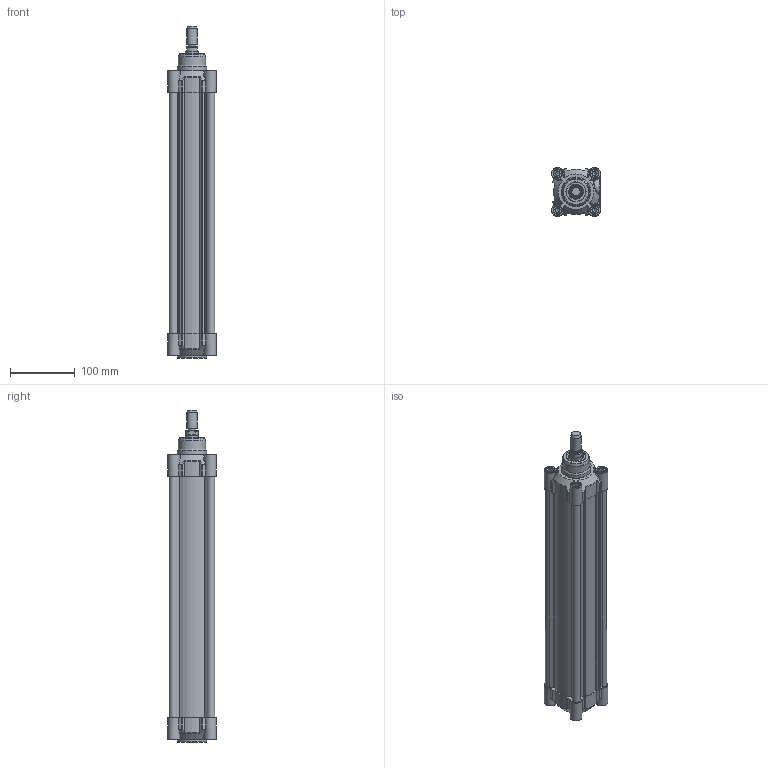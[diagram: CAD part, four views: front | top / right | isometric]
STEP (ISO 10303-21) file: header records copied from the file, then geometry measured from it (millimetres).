
FILE_DESCRIPTION(/* description */ ('CILINDRO D.E. MAGNETICO AMMORTIZZATO ISO 15552'),/* implementation_level */ '2;1');
FILE_NAME(/* name */ 'T:\Archivio Inventor\- 00 NUOVI STP PER SITO CON STELO CHE SI MUOVE\SERIE H - U\SERIE HDM\HDM063 - TUBO NUOVO\HDM063.320.GS.M.stp',/* time_stamp */ '2018-07-30T14:39:19+02:00',/* author */ ('carlo.corazza'),/* organization */ (''),/* preprocessor_version */ 'ST-DEVELOPER v16.5',/* originating_system */ 'Autodesk Inventor 2017',/* authorisation */ '');
FILE_SCHEMA (('AUTOMOTIVE_DESIGN { 1 0 10303 214 3 1 1 }'));
Length unit declared in the file: millimetre
Products named in the file (5): HDM063.320.GS.M; TP; TA; STELO-320; CORPO-320
Assembly tree (4 placements, depth 2):
  HDM063.320.GS.M
    TP
    TA
    STELO-320
    CORPO-320
Bounding box: 75 x 75 x 514 mm (x, y, z)
Volume: 759716.7 mm3; surface area: 377290.7 mm2
Topology: 4 solids, 27 shells, 1241 faces, 2936 edges, 1818 vertices
Faces by surface type: plane 368, cylinder 297, bspline 288, torus 108, cone 106, sphere 74
Full cylindrical faces by diameter (mm): 3 x2, 3.4 x2, 4.8 x2, 5.25 x2, 6.647 x8, 8 x8, 8.3 x12, 9.8 x4, 9.9 x2, 10 x6, 12 x3, 13 x8, 13.3 x8, 13.5 x1, 14.95 x2, 16 x1, 19.5 x1, 20 x1, 20.8 x1, 20.847 x1, 24 x1, 26 x2, 30 x3, 42 x1, 45 x2, 63 x1
Entity records: 40768 total; most frequent: CARTESIAN_POINT 13071, ORIENTED_EDGE 5326, DIRECTION 5100, EDGE_CURVE 2663, AXIS2_PLACEMENT_3D 2037, VERTEX_POINT 1763, EDGE_LOOP 1576, STYLED_ITEM 1245
